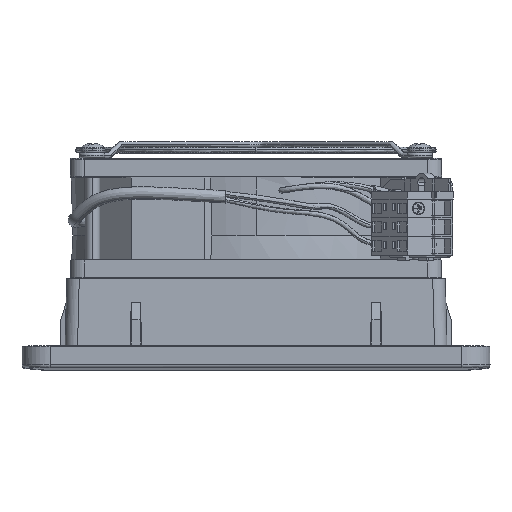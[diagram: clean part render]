
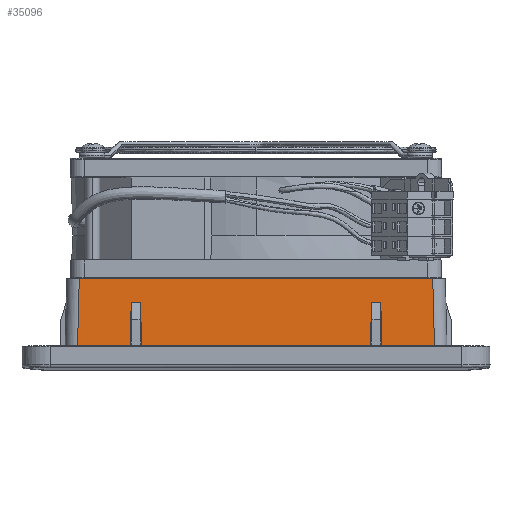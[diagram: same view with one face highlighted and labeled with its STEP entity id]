
A CAD part, top view. The second image highlights one B-rep face of the part: STEP entity #35096.
In plain terms, the highlighted planar face has unit normal (0, 0.026, 1).
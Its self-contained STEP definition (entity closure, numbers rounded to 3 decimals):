
#1312 = CARTESIAN_POINT ( 'NONE',  ( 368.643, -7.501, 60.836 ) ) ;
#1515 = VERTEX_POINT ( 'NONE', #29367 ) ;
#1565 = LINE ( 'NONE', #16032, #21655 ) ;
#2161 = CARTESIAN_POINT ( 'NONE',  ( 368.643, 2.15, 60.583 ) ) ;
#2578 = EDGE_CURVE ( 'NONE', #4763, #23962, #34293, .T. ) ;
#2974 = EDGE_CURVE ( 'NONE', #28925, #1515, #54276, .T. ) ;
#3801 = EDGE_CURVE ( 'NONE', #30713, #28925, #24441, .T. ) ;
#4604 = LINE ( 'NONE', #35149, #20576 ) ;
#4763 = VERTEX_POINT ( 'NONE', #61003 ) ;
#4937 = LINE ( 'NONE', #1312, #33858 ) ;
#5848 = DIRECTION ( 'NONE',  ( 1., 0., 0. ) ) ;
#8837 = LINE ( 'NONE', #43361, #30804 ) ;
#9230 = CARTESIAN_POINT ( 'NONE',  ( 368.643, -7.501, 60.836 ) ) ;
#10293 = DIRECTION ( 'NONE',  ( -0.026, 0.999, -0.026 ) ) ;
#10852 = DIRECTION ( 'NONE',  ( 1., 0., 0. ) ) ;
#11720 = CARTESIAN_POINT ( 'NONE',  ( 356.638, -0.001, 60.639 ) ) ;
#12155 = CARTESIAN_POINT ( 'NONE',  ( 340., -7.501, 60.836 ) ) ;
#14043 = VECTOR ( 'NONE', #35588, 1000. ) ;
#14260 = VECTOR ( 'NONE', #60600, 1000. ) ;
#15401 = LINE ( 'NONE', #50550, #26028 ) ;
#16032 = CARTESIAN_POINT ( 'NONE',  ( 368.643, -21.501, 61.202 ) ) ;
#16042 = ORIENTED_EDGE ( 'NONE', *, *, #48890, .T. ) ;
#16096 = VERTEX_POINT ( 'NONE', #55020 ) ;
#18024 = CARTESIAN_POINT ( 'NONE',  ( 336.692, -21.501, 61.202 ) ) ;
#19702 = EDGE_CURVE ( 'NONE', #32007, #30713, #1565, .T. ) ;
#20081 = EDGE_CURVE ( 'NONE', #38567, #23962, #60752, .T. ) ;
#20576 = VECTOR ( 'NONE', #41062, 1000. ) ;
#21466 = EDGE_LOOP ( 'NONE', ( #30633, #39833, #16042, #29571, #53681, #21781, #62269, #58286, #52636, #44537, #38654, #26422 ) ) ;
#21655 = VECTOR ( 'NONE', #45606, 1000. ) ;
#21781 = ORIENTED_EDGE ( 'NONE', *, *, #2974, .T. ) ;
#22235 = VECTOR ( 'NONE', #61390, 1000. ) ;
#23397 = EDGE_CURVE ( 'NONE', #56160, #40248, #43649, .T. ) ;
#23962 = VERTEX_POINT ( 'NONE', #11720 ) ;
#24064 = VERTEX_POINT ( 'NONE', #26848 ) ;
#24441 = LINE ( 'NONE', #39572, #14043 ) ;
#24875 = VECTOR ( 'NONE', #5848, 1000. ) ;
#25416 = LINE ( 'NONE', #54688, #14260 ) ;
#26028 = VECTOR ( 'NONE', #35434, 1000. ) ;
#26200 = LINE ( 'NONE', #45929, #22235 ) ;
#26231 = VECTOR ( 'NONE', #42987, 1000. ) ;
#26422 = ORIENTED_EDGE ( 'NONE', *, *, #41006, .T. ) ;
#26848 = CARTESIAN_POINT ( 'NONE',  ( 340.308, -21.501, 61.202 ) ) ;
#26894 = CARTESIAN_POINT ( 'NONE',  ( 243.362, -0.001, 60.639 ) ) ;
#28286 = EDGE_CURVE ( 'NONE', #16096, #56160, #8837, .T. ) ;
#28881 = DIRECTION ( 'NONE',  ( 1., 0., 0. ) ) ;
#28925 = VERTEX_POINT ( 'NONE', #55659 ) ;
#29055 = CARTESIAN_POINT ( 'NONE',  ( 336.692, -21.501, 61.202 ) ) ;
#29367 = CARTESIAN_POINT ( 'NONE',  ( 263., -7.501, 60.836 ) ) ;
#29571 = ORIENTED_EDGE ( 'NONE', *, *, #19702, .T. ) ;
#30633 = ORIENTED_EDGE ( 'NONE', *, *, #2578, .T. ) ;
#30713 = VERTEX_POINT ( 'NONE', #37775 ) ;
#30804 = VECTOR ( 'NONE', #28881, 1000. ) ;
#31749 = AXIS2_PLACEMENT_3D ( 'NONE', #2161, #42260, #62334 ) ;
#32007 = VERTEX_POINT ( 'NONE', #41430 ) ;
#32072 = FACE_OUTER_BOUND ( 'NONE', #21466, .T. ) ;
#33858 = VECTOR ( 'NONE', #10852, 1000. ) ;
#34293 = LINE ( 'NONE', #55637, #42197 ) ;
#35096 = ADVANCED_FACE ( 'NONE', ( #32072 ), #47191, .T. ) ;
#35149 = CARTESIAN_POINT ( 'NONE',  ( 263., -7.501, 60.836 ) ) ;
#35434 = DIRECTION ( 'NONE',  ( 0.022, -0.999, 0.026 ) ) ;
#35588 = DIRECTION ( 'NONE',  ( 0.022, 0.999, -0.026 ) ) ;
#36781 = VERTEX_POINT ( 'NONE', #12155 ) ;
#37775 = CARTESIAN_POINT ( 'NONE',  ( 259.692, -21.501, 61.202 ) ) ;
#38567 = VERTEX_POINT ( 'NONE', #26894 ) ;
#38654 = ORIENTED_EDGE ( 'NONE', *, *, #56717, .T. ) ;
#39470 = DIRECTION ( 'NONE',  ( 1., 0., 0. ) ) ;
#39572 = CARTESIAN_POINT ( 'NONE',  ( 259.692, -21.501, 61.202 ) ) ;
#39833 = ORIENTED_EDGE ( 'NONE', *, *, #20081, .F. ) ;
#40248 = VERTEX_POINT ( 'NONE', #51554 ) ;
#41006 = EDGE_CURVE ( 'NONE', #24064, #4763, #26200, .T. ) ;
#41062 = DIRECTION ( 'NONE',  ( 0.022, -0.999, 0.026 ) ) ;
#41430 = CARTESIAN_POINT ( 'NONE',  ( 242.799, -21.501, 61.202 ) ) ;
#42197 = VECTOR ( 'NONE', #10293, 1000. ) ;
#42260 = DIRECTION ( 'NONE',  ( 0., 0.026, 1. ) ) ;
#42987 = DIRECTION ( 'NONE',  ( 0.022, 0.999, -0.026 ) ) ;
#43361 = CARTESIAN_POINT ( 'NONE',  ( 368.643, -21.501, 61.202 ) ) ;
#43649 = LINE ( 'NONE', #18024, #26231 ) ;
#44537 = ORIENTED_EDGE ( 'NONE', *, *, #62122, .T. ) ;
#45606 = DIRECTION ( 'NONE',  ( 1., 0., 0. ) ) ;
#45929 = CARTESIAN_POINT ( 'NONE',  ( 368.643, -21.501, 61.202 ) ) ;
#47191 = PLANE ( 'NONE',  #31749 ) ;
#48890 = EDGE_CURVE ( 'NONE', #38567, #32007, #25416, .T. ) ;
#50550 = CARTESIAN_POINT ( 'NONE',  ( 340., -7.501, 60.836 ) ) ;
#50882 = CARTESIAN_POINT ( 'NONE',  ( 227.234, -0.001, 60.639 ) ) ;
#51554 = CARTESIAN_POINT ( 'NONE',  ( 337., -7.501, 60.836 ) ) ;
#52392 = EDGE_CURVE ( 'NONE', #1515, #16096, #4604, .T. ) ;
#52636 = ORIENTED_EDGE ( 'NONE', *, *, #23397, .T. ) ;
#53681 = ORIENTED_EDGE ( 'NONE', *, *, #3801, .T. ) ;
#54276 = LINE ( 'NONE', #9230, #63230 ) ;
#54688 = CARTESIAN_POINT ( 'NONE',  ( 243.362, -0.001, 60.639 ) ) ;
#55020 = CARTESIAN_POINT ( 'NONE',  ( 263.308, -21.501, 61.202 ) ) ;
#55637 = CARTESIAN_POINT ( 'NONE',  ( 357.201, -21.501, 61.202 ) ) ;
#55659 = CARTESIAN_POINT ( 'NONE',  ( 260., -7.501, 60.836 ) ) ;
#56160 = VERTEX_POINT ( 'NONE', #29055 ) ;
#56717 = EDGE_CURVE ( 'NONE', #36781, #24064, #15401, .T. ) ;
#58286 = ORIENTED_EDGE ( 'NONE', *, *, #28286, .T. ) ;
#60600 = DIRECTION ( 'NONE',  ( -0.026, -0.999, 0.026 ) ) ;
#60752 = LINE ( 'NONE', #50882, #24875 ) ;
#61003 = CARTESIAN_POINT ( 'NONE',  ( 357.201, -21.501, 61.202 ) ) ;
#61390 = DIRECTION ( 'NONE',  ( 1., 0., 0. ) ) ;
#62122 = EDGE_CURVE ( 'NONE', #40248, #36781, #4937, .T. ) ;
#62269 = ORIENTED_EDGE ( 'NONE', *, *, #52392, .T. ) ;
#62334 = DIRECTION ( 'NONE',  ( 0., -1., 0.026 ) ) ;
#63230 = VECTOR ( 'NONE', #39470, 1000. ) ;
